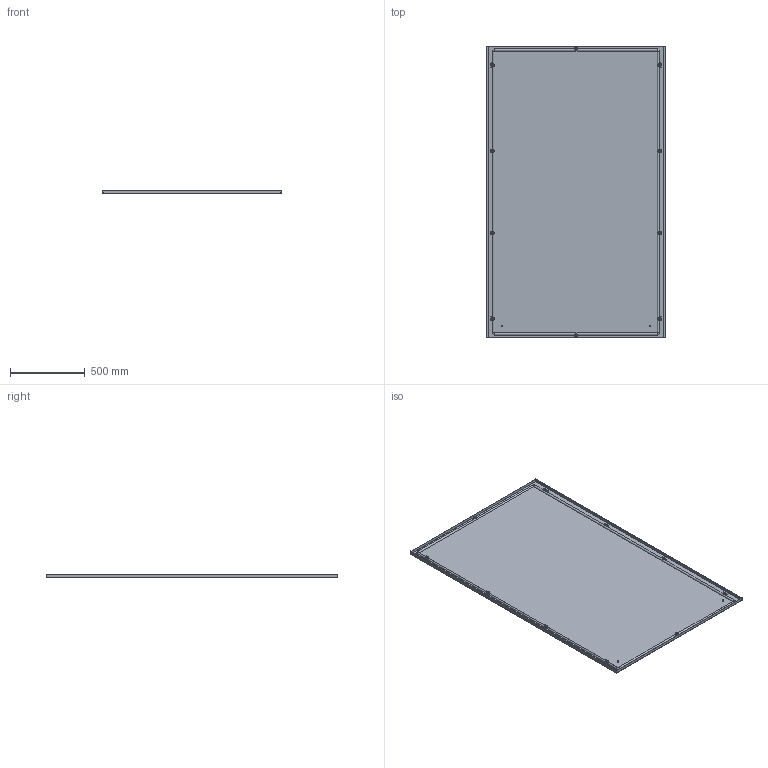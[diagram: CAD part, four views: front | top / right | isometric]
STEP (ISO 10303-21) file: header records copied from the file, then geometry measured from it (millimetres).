
FILE_DESCRIPTION(('Open CASCADE Model'),'2;1');
FILE_NAME('Open CASCADE Shape Model','2025-02-07T16:30:54',('Author'),( 'Open CASCADE'),'Open CASCADE STEP processor 7.8','Open CASCADE 7.8' ,'Unknown');
FILE_SCHEMA(('AUTOMOTIVE_DESIGN { 1 0 10303 214 1 1 1 1 }'));
Length unit declared in the file: millimetre
Products named in the file (10): Compound1; Compound2; Compound3; Solid1; Solid2; Solid3; Solid4; Solid5; Solid6; Solid7
Assembly tree (46 placements, depth 4):
  Compound1
    Compound2
      Compound3
        Solid1
        Solid2  x4
      Solid3
    Solid4  x10
    Solid5  x8
    Solid6  x10
    Solid7  x10
Bounding box: 1194 x 1955 x 23.8 mm (x, y, z)
Volume: 4293332.9 mm3; surface area: 5261862.5 mm2
Topology: 44 solids, 44 shells, 1897 faces, 4610 edges, 2804 vertices
Faces by surface type: plane 1157, cone 384, cylinder 312, torus 34, bspline 10
Full cylindrical faces by diameter (mm): 5 x20, 6 x164, 7.5 x4, 8 x20, 10 x10, 11.57 x10
Entity records: 7881 total; most frequent: CARTESIAN_POINT 1467, DIRECTION 1289, ORIENTED_EDGE 1256, EDGE_CURVE 628, AXIS2_PLACEMENT_3D 440, LINE 409, VECTOR 409, VERTEX_POINT 391
